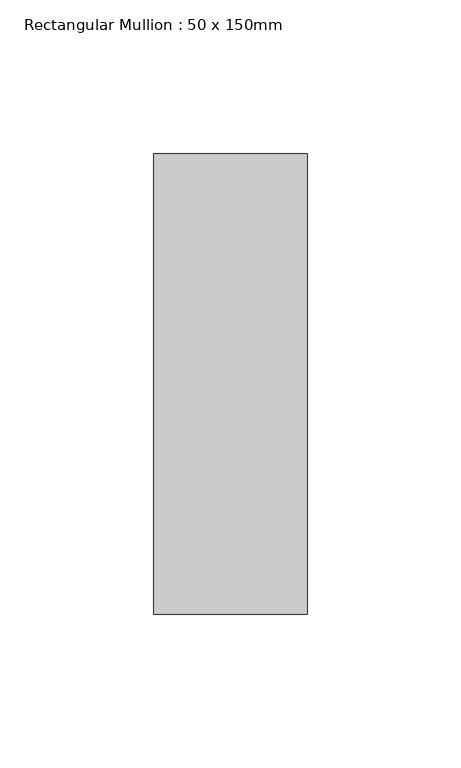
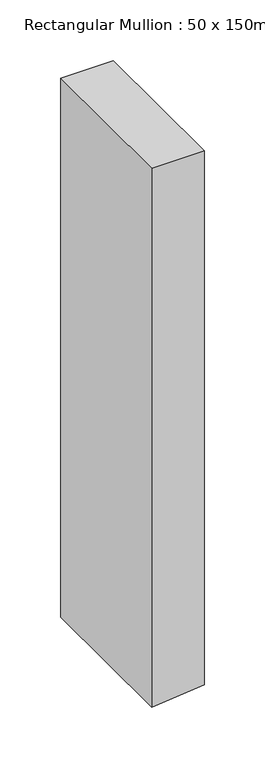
"""IFC4 building model written with IfcOpenShell, lengths in millimetres: member geometry, Rectangular Mullion : 50 x 150mm."""

from ifc_helpers import new_model, si_unit, frame, origin, place, context, project, spatial, polyline, outline, extrude, source, transform, mapped, element, save


def rectangular_mullion_50_x_150mm_d0145725(model_context):
    return source(origin(), model_context, "Body", "SweptSolid", [
        extrude(outline(polyline([(0.0, 25.0), (0.0, -25.0), (-542.5755862, -25.0), (-540.5648191, -5.0022633), (-537.5480995, 25.0), (0.0, 25.0)])), frame((0.0, -75.0, 0.0), z_axis=(0.0, 1.0, 0.0), x_axis=(0.0, 0.0, 1.0)), (0.0, 0.0, 1.0), 150.0),
    ])


if __name__ == "__main__":
    model = new_model("IFC4")
    model_context = context("Model", 3, world=origin())
    ifc_project = project(units=[si_unit("LENGTHUNIT", "METRE", prefix="MILLI")], contexts=[model_context])
    site = spatial("IfcSite", under=ifc_project)
    building = spatial("IfcBuilding", under=site)
    placement = place(None, origin())
    rectangular_mullion_50_x_150mm_shape = rectangular_mullion_50_x_150mm_d0145725(model_context)
    element("IfcMember", 1, ObjectType="Rectangular Mullion : 50 x 150mm", at=placement, inside=building, context=model_context, shape_type="MappedRepresentation", body=[
        mapped(rectangular_mullion_50_x_150mm_shape, transform((0.0, 0.0, 0.0), x_axis=(1.0, 0.0, 0.0), y_axis=(0.0, 1.0, 0.0), z_axis=(0.0, 0.0, 1.0))),
    ])
    save(model, "model.ifc")
